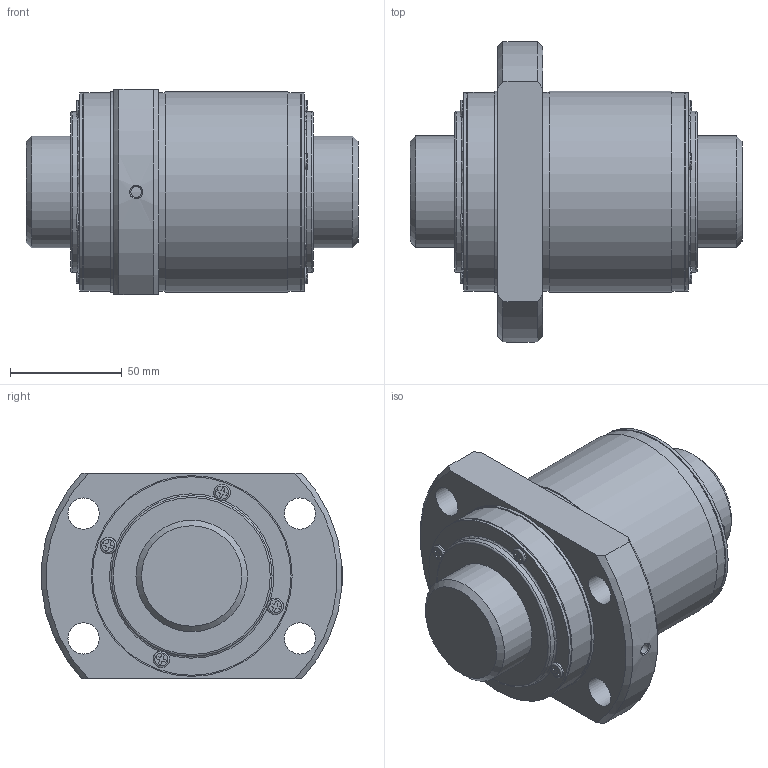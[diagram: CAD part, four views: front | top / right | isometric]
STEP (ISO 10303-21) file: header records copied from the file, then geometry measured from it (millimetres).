
FILE_DESCRIPTION(/* description */ ('STEP AP203'),/* implementation_level */ '2;1');
FILE_NAME(/* name */ 'WTF50100-2ZZ+148.8LC7T_000_rev',/* time_stamp */ '2025-06-11T06:41:45+02:00',/* author */ ('License CC BY-ND 4.0'),/* organization */ ('CADENAS'),/* preprocessor_version */ 'ST-DEVELOPER v19.3',/* originating_system */ 'PARTsolutions',/* authorisation */ ' ');
FILE_SCHEMA (('CONFIG_CONTROL_DESIGN'));
Length unit declared in the file: millimetre
Products named in the file (3): WTF50100-2ZZ+148.8LC7T_000_rev; WTF50100-20ZZ0 Shaft; WTF50100-2ZZ Nut
Assembly tree (2 placements, depth 2):
  WTF50100-2ZZ+148.8LC7T_000_rev
    WTF50100-20ZZ0 Shaft
    WTF50100-2ZZ Nut
Bounding box: 148.8 x 134.77 x 92 mm (x, y, z)
Volume: 834433.2 mm3; surface area: 98276.8 mm2
Topology: 2 solids, 2 shells, 206 faces, 539 edges, 354 vertices
Faces by surface type: plane 127, cylinder 58, torus 12, cone 9
Full cylindrical faces by diameter (mm): 4.917 x1, 7.42 x8, 14 x4, 50 x2, 72 x2, 89 x5, 90 x2
Entity records: 6183 total; most frequent: CARTESIAN_POINT 1147, DIRECTION 1028, ORIENTED_EDGE 974, EDGE_CURVE 487, AXIS2_PLACEMENT_3D 350, VERTEX_POINT 343, LINE 328, VECTOR 328
